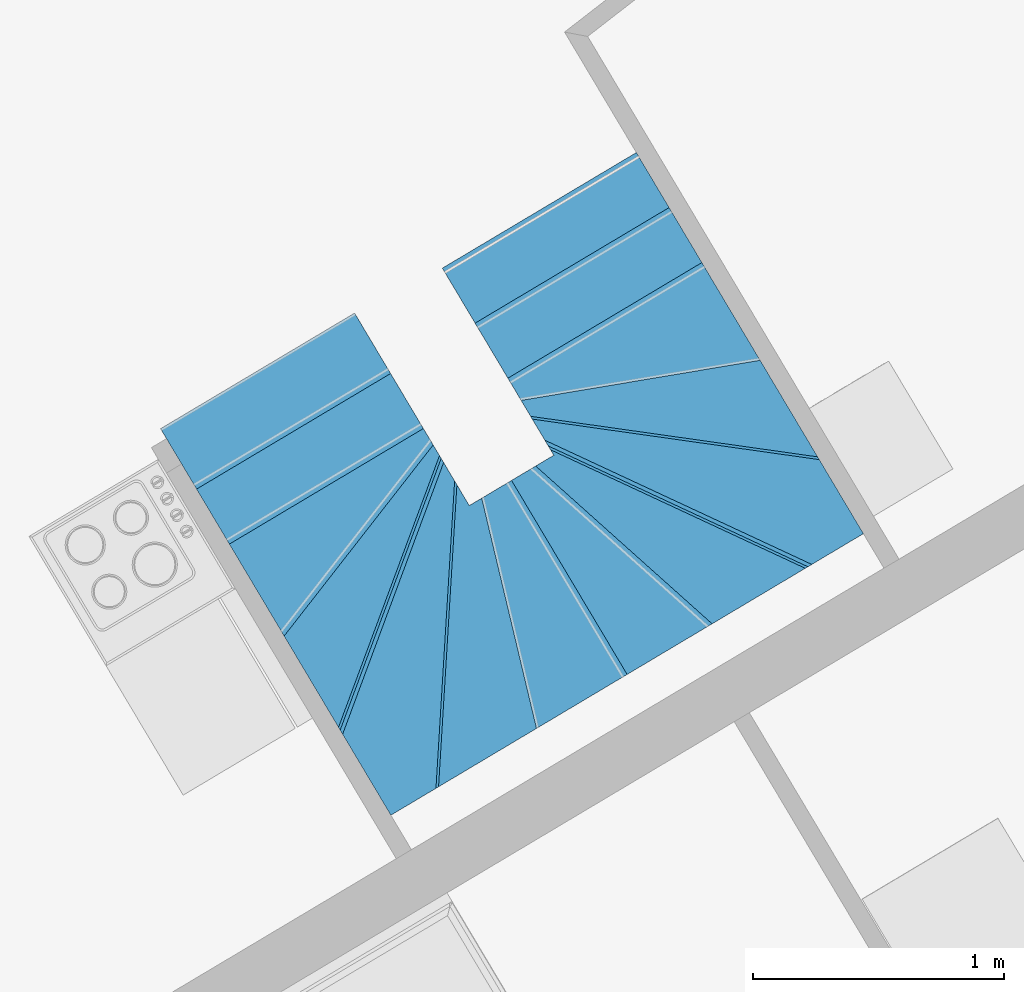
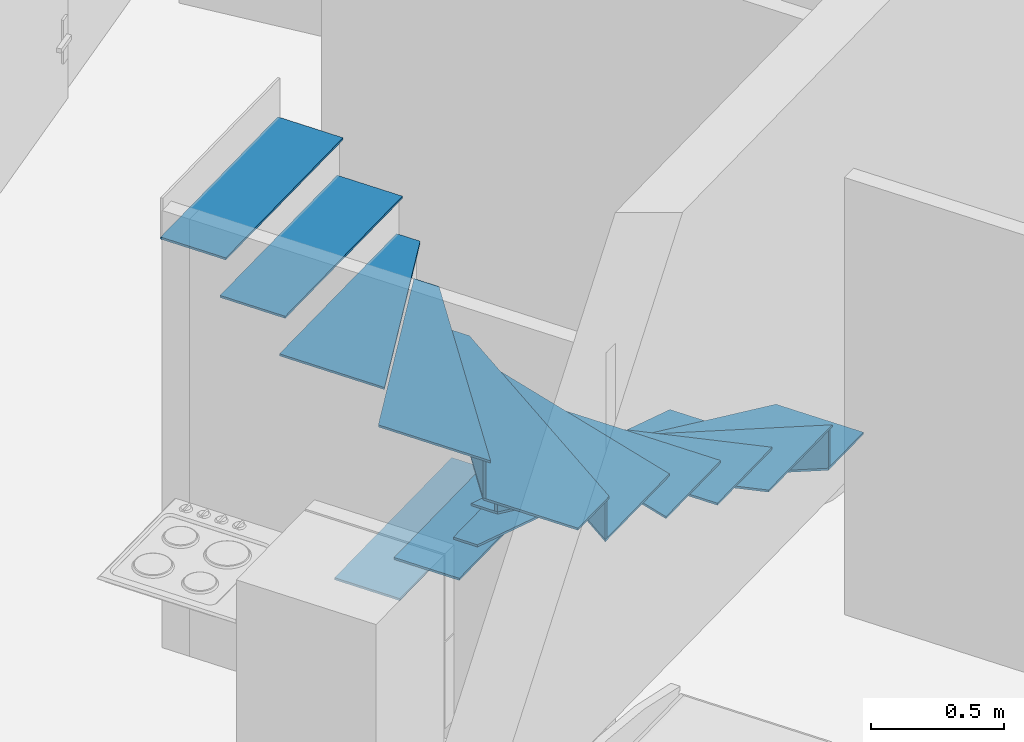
# One storey, part 100 of 195: 35 members, 2 elements without a shape of their own.
"""IFC2X3 building model written with IfcOpenShell, lengths in metres."""

from ifc_helpers import new_model, entity, si_unit, converted_unit, derived_unit, money_unit, direction, frame, origin_with_axes, place, context, subcontext, project, spatial, faceted_brep, material, type_object, element, aggregate, save


model = new_model("IFC2X3")

# Units and contexts
model_context = context("Model", 3, precision=1e-05, world=origin_with_axes(), true_north=direction((0.0, 1.0)))
body_context = subcontext(model_context, "Body", "Model", "MODEL_VIEW")
ifc_project = project(units=[si_unit("LENGTHUNIT", "METRE"), si_unit("AREAUNIT", "SQUARE_METRE"), si_unit("VOLUMEUNIT", "CUBIC_METRE"), converted_unit("PLANEANGLEUNIT", "DEGREE", entity("IfcPlaneAngleMeasure", 0.0174532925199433), si_unit("PLANEANGLEUNIT", "RADIAN"), dimensions=[0, 0, 0, 0, 0, 0, 0]), money_unit("CHF"), converted_unit("TIMEUNIT", "Year", entity("IfcTimeMeasure", 31557600.0), si_unit("TIMEUNIT", "SECOND"), dimensions=[0, 0, 1, 0, 0, 0, 0]), si_unit("MASSUNIT", "GRAM", prefix="KILO"), si_unit("THERMODYNAMICTEMPERATUREUNIT", "DEGREE_CELSIUS"), si_unit("LUMINOUSINTENSITYUNIT", "LUMEN"), si_unit("ENERGYUNIT", "JOULE", prefix="MEGA"), derived_unit("THERMALCONDUCTANCEUNIT", [(si_unit("POWERUNIT", "WATT"), 1), (si_unit("LENGTHUNIT", "METRE"), -1), (si_unit("THERMODYNAMICTEMPERATUREUNIT", "KELVIN"), -1)]), derived_unit("SPECIFICHEATCAPACITYUNIT", [(si_unit("ENERGYUNIT", "JOULE"), 1), (si_unit("MASSUNIT", "GRAM", prefix="KILO"), -1), (si_unit("THERMODYNAMICTEMPERATUREUNIT", "KELVIN"), -1)]), derived_unit("MASSDENSITYUNIT", [(si_unit("MASSUNIT", "GRAM", prefix="KILO"), 1), (si_unit("VOLUMEUNIT", "CUBIC_METRE"), -1)])], contexts=[model_context])

# Site, building, storey
site_placement = place(None, origin_with_axes())
site = spatial("IfcSite", under=ifc_project, at=site_placement, Name="Site", CompositionType="ELEMENT")
building_placement = place(site_placement, origin_with_axes())
building = spatial("IfcBuilding", under=site, at=building_placement, Name="Bâtiment", CompositionType="ELEMENT")
storey_placement = place(building_placement, origin_with_axes())
storey = spatial("IfcBuildingStorey", under=building, at=storey_placement, Name="rdc", CompositionType="ELEMENT", Elevation=0.0)

# Stair, members
stair_1_placement = place(storey_placement, frame((9542.358293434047, -1043.385861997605, 57.0), z_axis=(0.0, 0.0, 1.0), x_axis=(0.5118296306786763, -0.8590869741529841, 0.0)))
stair_1 = element("IfcStair", 1, at=stair_1_placement, inside=storey, Name="ESC-014", ShapeType="NOTDEFINED")
ifc_material = material(Name="Lame d'air 275581351")
member_type = type_object("IfcMemberType", Name="IfcMember", PredefinedType="NOTDEFINED")
member_1_placement = place(stair_1_placement, frame((0.1501360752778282, -0.451252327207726, 0.8900000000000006), z_axis=(0.0, 0.0, 1.0), x_axis=(-0.6269327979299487, -0.7790733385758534, 0.0)))
member_1 = element("IfcMember", 2, at=member_1_placement, type_object=member_type, material=ifc_material, Name="C-MARCHE-235", context=body_context, shape_type="Brep", body=[
    faceted_brep([(0.5460403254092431, 0.01500000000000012, 0.0), (0.5379931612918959, 0.02500000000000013, 0.0), (-0.6172256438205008, 0.02500000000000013, 0.0), (-0.6091784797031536, 0.01500000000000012, 0.0), (0.5460403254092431, 0.01500000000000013, -0.17), (0.5379931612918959, 0.02500000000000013, -0.17), (-0.6172256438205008, 0.02500000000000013, -0.17), (-0.6091784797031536, 0.01500000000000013, -0.17)], [[[0, 1, 2, 3]], [[0, 4, 5, 1]], [[1, 5, 6, 2]], [[3, 2, 6, 7]], [[4, 0, 3, 7]], [[5, 4, 7, 6]]]),
])
member_2_placement = place(stair_1_placement, frame((0.3566544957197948, -0.5955488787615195, 1.07), z_axis=(0.0, 0.0, 1.0), x_axis=(-0.8264538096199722, -0.5630045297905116, 0.0)))
member_2 = element("IfcMember", 3, at=member_2_placement, type_object=member_type, material=ifc_material, Name="C-MARCHE-236", context=body_context, shape_type="Brep", body=[
    faceted_brep([(0.4939854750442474, 0.0149999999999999, 0.0), (0.4793061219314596, 0.0249999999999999, 0.0), (-0.6404114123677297, 0.02499999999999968, 0.0), (-0.6472237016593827, 0.01499999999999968, 0.0), (0.4939854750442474, 0.01499999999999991, -0.1699999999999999), (0.4793061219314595, 0.02499999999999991, -0.1699999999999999), (-0.6404114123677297, 0.02499999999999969, -0.1699999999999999), (-0.6472237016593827, 0.01499999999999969, -0.1699999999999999)], [[[0, 1, 2, 3]], [[0, 4, 5, 1]], [[1, 5, 6, 2]], [[3, 2, 6, 7]], [[4, 0, 3, 7]], [[5, 4, 7, 6]]]),
])
member_3_placement = place(stair_1_placement, frame((0.3566547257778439, -1.568489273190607, 1.789999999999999), z_axis=(0.0, 0.0, 1.0), x_axis=(-0.8264540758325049, 0.5630041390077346, 0.0)))
member_3 = element("IfcMember", 4, at=member_3_placement, type_object=member_type, material=ifc_material, Name="C-MARCHE-240", context=body_context, shape_type="Brep", body=[
    faceted_brep([(0.5380235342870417, 0.0149999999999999, 0.0), (0.5527028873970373, 0.0249999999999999, 0.0), (-0.6744728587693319, 0.0249999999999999, 0.0), (-0.6676605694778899, 0.0149999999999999, 0.0), (0.5380235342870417, 0.01499999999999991, -0.1700000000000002), (0.5527028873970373, 0.02499999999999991, -0.1700000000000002), (-0.6744728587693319, 0.02499999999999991, -0.1700000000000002), (-0.6676605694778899, 0.01499999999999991, -0.1700000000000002)], [[[0, 1, 2, 3]], [[0, 4, 5, 1]], [[1, 5, 6, 2]], [[3, 2, 6, 7]], [[4, 0, 3, 7]], [[5, 4, 7, 6]]]),
])
member_4_placement = place(stair_1_placement, frame((0.1501363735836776, -1.71278592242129, 1.969999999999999), z_axis=(0.0, 0.0, 1.0), x_axis=(-0.6269331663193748, 0.7790730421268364, 0.0)))
member_4 = element("IfcMember", 5, at=member_4_placement, type_object=member_type, material=ifc_material, Name="C-MARCHE-241", context=body_context, shape_type="Brep", body=[
    faceted_brep([(0.5701818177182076, 0.01499999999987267, 0.0), (0.5782289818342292, 0.02499999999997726, 0.0), (-0.5769898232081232, 0.02499999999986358, 0.0), (-0.5850369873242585, 0.01499999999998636, 0.0), (0.5701818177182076, 0.01499999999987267, -0.1700000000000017), (0.5782289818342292, 0.02499999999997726, -0.1700000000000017), (-0.5769898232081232, 0.02499999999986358, -0.1700000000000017), (-0.5850369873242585, 0.01499999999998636, -0.1700000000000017)], [[[0, 1, 2, 3]], [[0, 4, 5, 1]], [[1, 5, 6, 2]], [[3, 2, 6, 7]], [[4, 0, 3, 7]], [[5, 4, 7, 6]]]),
])
member_5_placement = place(stair_1_placement, frame((-0.6126475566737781, -0.4260618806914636, 0.3599999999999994), z_axis=(0.0, 0.0, 1.0), x_axis=(2.365009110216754e-07, -0.9999999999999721, 0.0)))
member_5 = element("IfcMember", 6, at=member_5_placement, type_object=member_type, material=ifc_material, Name="MARCHE-224", context=body_context, shape_type="Brep", body=[
    faceted_brep([(-0.44, 0.0, -0.01), (0.4600000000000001, 0.0, -0.01), (0.4600000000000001, 0.0, 0.0), (-0.44, 0.0, 0.0), (-0.4399999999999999, 0.280195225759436, -0.01), (0.4600000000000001, 0.2801952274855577, -0.01), (0.4600000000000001, 0.2801952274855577, 0.0), (-0.4399999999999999, 0.280195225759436, 0.0)], [[[0, 1, 2, 3]], [[0, 4, 5, 1]], [[1, 5, 6, 2]], [[3, 2, 6, 7]], [[4, 0, 3, 7]], [[5, 4, 7, 6]]]),
])
member_6_placement = place(stair_1_placement, frame((-0.1022570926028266, -0.4260617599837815, 0.7199999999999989), z_axis=(0.0, 0.0, 1.0), x_axis=(-0.362570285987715, -0.9319564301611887, 0.0)))
member_6 = element("IfcMember", 7, at=member_6_placement, type_object=member_type, material=ifc_material, Name="MARCHE-226", context=body_context, shape_type="Brep", body=[
    faceted_brep([(-0.4721251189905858, 0.0, -0.01), (0.4935853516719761, 0.0, -0.01), (0.4935853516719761, 0.0, 0.0), (-0.4721251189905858, 0.0, 0.0), (-0.6489327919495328, 0.4544689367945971, -0.01), (0.4524177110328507, 0.1058178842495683, -0.01), (0.4524177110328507, 0.1058178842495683, 0.0), (-0.6489327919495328, 0.4544689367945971, 0.0)], [[[0, 1, 2, 3]], [[0, 4, 5, 1]], [[1, 5, 6, 2]], [[3, 2, 6, 7]], [[4, 0, 3, 7]], [[5, 4, 7, 6]]]),
])
member_7_placement = place(stair_1_placement, frame((-0.8678427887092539, -0.426061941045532, 0.1799999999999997), z_axis=(0.0, 0.0, 1.0), x_axis=(2.365009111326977e-07, -0.999999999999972, 0.0)))
member_7 = element("IfcMember", 8, at=member_7_placement, type_object=member_type, material=ifc_material, Name="MARCHE-223", context=body_context, shape_type="Brep", body=[
    faceted_brep([(-0.44, 0.0, -0.01), (0.4600000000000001, 0.0, -0.01), (0.4600000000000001, 0.0, 0.0), (-0.44, 0.0, 0.0), (-0.4399999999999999, 0.280195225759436, -0.01), (0.4600000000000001, 0.2801952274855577, -0.01), (0.4600000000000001, 0.2801952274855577, 0.0), (-0.4399999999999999, 0.280195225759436, 0.0)], [[[0, 1, 2, 3]], [[0, 4, 5, 1]], [[1, 5, 6, 2]], [[3, 2, 6, 7]], [[4, 0, 3, 7]], [[5, 4, 7, 6]]]),
])
member_8_placement = place(stair_1_placement, frame((0.1501360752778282, -0.451252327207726, 0.8999999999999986), z_axis=(0.0, 0.0, 1.0), x_axis=(-0.6269327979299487, -0.7790733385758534, 0.0)))
member_8 = element("IfcMember", 9, at=member_8_placement, type_object=member_type, material=ifc_material, Name="MARCHE-227", context=body_context, shape_type="Brep", body=[
    faceted_brep([(-0.5971077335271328, 0.0, -0.01), (0.5581110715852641, 0.0, -0.01), (0.5581110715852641, 0.0, 0.0), (-0.5971077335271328, 0.0, 0.0), (-0.8325320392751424, 0.2925556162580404, -0.01), (-0.6224984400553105, 0.4615731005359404, -0.01), (0.4487944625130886, 0.1358448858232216, -0.01), (0.4487944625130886, 0.1358448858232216, 0.0), (-0.6224984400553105, 0.4615731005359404, 0.0), (-0.8325320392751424, 0.2925556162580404, 0.0)], [[[0, 1, 2, 3]], [[0, 4, 5, 6, 1]], [[1, 6, 7, 2]], [[3, 2, 7, 8, 9]], [[4, 0, 3, 9]], [[5, 4, 9, 8]], [[6, 5, 8, 7]]]),
])
member_9_placement = place(stair_1_placement, frame((-0.3574523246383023, -0.4260618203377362, 0.5399999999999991), z_axis=(0.0, 0.0, 1.0), x_axis=(2.3650091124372e-07, -0.9999999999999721, 0.0)))
member_9 = element("IfcMember", 10, at=member_9_placement, type_object=member_type, material=ifc_material, Name="MARCHE-225", context=body_context, shape_type="Brep", body=[
    faceted_brep([(-0.4399999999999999, 0.0, -0.01), (0.46, 0.0, -0.01), (0.46, 0.0, 0.0), (-0.4399999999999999, 0.0, 0.0), (-0.4399999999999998, 0.4531991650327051, -0.01), (0.46, 0.1030610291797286, -0.01), (0.46, 0.1030610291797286, 0.0), (-0.4399999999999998, 0.4531991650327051, 0.0)], [[[0, 1, 2, 3]], [[0, 4, 5, 1]], [[1, 5, 6, 2]], [[3, 2, 6, 7]], [[4, 0, 3, 7]], [[5, 4, 7, 6]]]),
])
member_10_placement = place(stair_1_placement, frame((0.3566544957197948, -0.5955488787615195, 1.079999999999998), z_axis=(0.0, 0.0, 1.0), x_axis=(-0.8264538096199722, -0.5630045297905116, 0.0)))
member_10 = element("IfcMember", 11, at=member_10_placement, type_object=member_type, material=ifc_material, Name="MARCHE-228", context=body_context, shape_type="Brep", body=[
    faceted_brep([(-0.6574421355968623, 0.0, -0.01), (0.5160045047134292, 0.0, -0.01), (0.5160045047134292, 0.0, 0.0), (-0.6574421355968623, 0.0, 0.0), (-0.3823180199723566, 0.403864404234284, -0.01), (0.5203138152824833, 0.1303028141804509, -0.01), (0.4583183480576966, 0.03929747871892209, -0.01), (0.4583183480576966, 0.03929747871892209, 0.0), (0.5203138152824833, 0.1303028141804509, 0.0), (-0.3823180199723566, 0.403864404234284, 0.0)], [[[0, 1, 2, 3]], [[0, 4, 5, 6, 1]], [[1, 6, 7, 2]], [[3, 2, 7, 8, 9]], [[4, 0, 3, 9]], [[5, 4, 9, 8]], [[6, 5, 8, 7]]]),
])
member_11_placement = place(stair_1_placement, frame((0.4600002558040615, -1.082019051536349, 1.439999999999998), z_axis=(0.0, 0.0, 1.0), x_axis=(-0.9999999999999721, -2.364141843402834e-07, 0.0)))
member_11 = element("IfcMember", 12, at=member_11_placement, type_object=member_type, material=ifc_material, Name="MARCHE-230", context=body_context, shape_type="Brep", body=[
    faceted_brep([(-0.4399999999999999, 0.0, -0.01), (0.46, 0.0, -0.01), (0.46, 0.0, 0.0), (-0.4399999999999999, 0.0, 0.0), (-0.4399999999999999, 0.4203402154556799, -0.01), (0.46, 0.138240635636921, -0.01), (0.46, 0.138240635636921, 0.0), (-0.4399999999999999, 0.4203402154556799, 0.0)], [[[0, 1, 2, 3]], [[0, 4, 5, 1]], [[1, 5, 6, 2]], [[3, 2, 6, 7]], [[4, 0, 3, 7]], [[5, 4, 7, 6]]]),
])
member_12_placement = place(stair_1_placement, frame((0.4561912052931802, -0.8269874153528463, 1.259999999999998), z_axis=(0.0, 0.0, 1.0), x_axis=(-0.9542231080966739, -0.2990957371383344, 0.0)))
member_12 = element("IfcMember", 13, at=member_12_placement, type_object=member_type, material=ifc_material, Name="MARCHE-229", context=body_context, shape_type="Brep", body=[
    faceted_brep([(-0.465099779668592, 0.0, -0.01), (0.4780758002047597, 0.0, -0.01), (0.4780758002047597, 0.0, 0.0), (-0.465099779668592, 0.0, 0.0), (-0.3397366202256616, 0.3999539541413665, -0.01), (0.5190642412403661, 0.1307679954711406, -0.01), (0.5190642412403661, 0.1307679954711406, 0.0), (-0.3397366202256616, 0.3999539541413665, 0.0)], [[[0, 1, 2, 3]], [[0, 4, 5, 1]], [[1, 5, 6, 2]], [[3, 2, 6, 7]], [[4, 0, 3, 7]], [[5, 4, 7, 6]]]),
])
member_13_placement = place(stair_1_placement, frame((0.3566547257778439, -1.568489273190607, 1.799999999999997), z_axis=(0.0, 0.0, 1.0), x_axis=(-0.8264540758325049, 0.5630041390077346, 0.0)))
member_13 = element("IfcMember", 14, at=member_13_placement, type_object=member_type, material=ifc_material, Name="MARCHE-232", context=body_context, shape_type="Brep", body=[
    faceted_brep([(-0.6574421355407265, 0.0, -0.01), (0.5160045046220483, 0.0, -0.01), (0.5160045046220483, 0.0, 0.0), (-0.6574421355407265, 0.0, 0.0), (-0.7921941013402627, 0.1978071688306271, -0.01), (-0.4553257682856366, 0.4272916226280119, -0.01), (0.6499330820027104, 0.09123602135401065, -0.01), (0.6499330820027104, 0.09123602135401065, 0.0), (-0.4553257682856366, 0.4272916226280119, 0.0), (-0.7921941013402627, 0.1978071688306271, 0.0)], [[[0, 1, 2, 3]], [[0, 4, 5, 6, 1]], [[1, 6, 7, 2]], [[3, 2, 7, 8, 9]], [[4, 0, 3, 9]], [[5, 4, 9, 8]], [[6, 5, 8, 7]]]),
])
member_14_placement = place(stair_1_placement, frame((0.4561913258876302, -1.337050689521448, 1.619999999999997), z_axis=(0.0, 0.0, 1.0), x_axis=(-0.954223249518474, 0.299095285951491, 0.0)))
member_14 = element("IfcMember", 15, at=member_14_placement, type_object=member_type, material=ifc_material, Name="MARCHE-231", context=body_context, shape_type="Brep", body=[
    faceted_brep([(-0.4650997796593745, 0.0, -0.01), (0.4780758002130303, 0.0, -0.01), (0.4780758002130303, 0.0, 0.0), (-0.4650997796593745, 0.0, 0.0), (-0.612470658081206, 0.4701665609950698, -0.01), (0.5619531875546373, 0.1142326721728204, -0.01), (0.4529768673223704, 0.08007470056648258, -0.01), (0.4529768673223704, 0.08007470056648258, 0.0), (0.5619531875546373, 0.1142326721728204, 0.0), (-0.612470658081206, 0.4701665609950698, 0.0)], [[[0, 1, 2, 3]], [[0, 4, 5, 6, 1]], [[1, 6, 7, 2]], [[3, 2, 7, 8, 9]], [[4, 0, 3, 9]], [[5, 4, 9, 8]], [[6, 5, 8, 7]]]),
])
member_15_placement = place(stair_1_placement, frame((0.1501363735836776, -1.71278592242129, 1.979999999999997), z_axis=(0.0, 0.0, 1.0), x_axis=(-0.6269331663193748, 0.7790730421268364, 0.0)))
member_15 = element("IfcMember", 16, at=member_15_placement, type_object=member_type, material=ifc_material, Name="MARCHE-233", context=body_context, shape_type="Brep", body=[
    faceted_brep([(-0.5971077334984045, 0.0, -0.00999999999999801), (0.5581110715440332, 0.0, -0.00999999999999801), (0.5581110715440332, 0.0, 0.0), (-0.5971077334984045, 0.0, 0.0), (-0.2946838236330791, 0.3758142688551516, -0.00999999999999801), (0.6259951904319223, 0.08435781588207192, -0.00999999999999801), (0.6259951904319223, 0.08435781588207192, 0.0), (-0.2946838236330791, 0.3758142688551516, 0.0)], [[[0, 1, 2, 3]], [[0, 4, 5, 1]], [[1, 5, 6, 2]], [[3, 2, 6, 7]], [[4, 0, 3, 7]], [[5, 4, 7, 6]]]),
])
member_16_placement = place(stair_1_placement, frame((-0.1022567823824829, -1.737976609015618, 2.159999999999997), z_axis=(0.0, 0.0, 1.0), x_axis=(-0.3625707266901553, 0.9319562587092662, 0.0)))
member_16 = element("IfcMember", 17, at=member_16_placement, type_object=member_type, material=ifc_material, Name="MARCHE-234", context=body_context, shape_type="Brep", body=[
    faceted_brep([(-0.4721251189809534, 0.0, -0.01), (0.4935853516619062, 0.0, -0.01), (0.4935853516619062, 0.0, 0.0), (-0.4721251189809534, 0.0, 0.0), (-0.3084702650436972, 0.4206607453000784, -0.01), (0.5302904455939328, 0.09434729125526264, -0.01), (0.5302904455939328, 0.09434729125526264, 0.0), (-0.3084702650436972, 0.4206607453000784, 0.0)], [[[0, 1, 2, 3]], [[0, 4, 5, 1]], [[1, 5, 6, 2]], [[3, 2, 6, 7]], [[4, 0, 3, 7]], [[5, 4, 7, 6]]]),
])
member_17_placement = place(stair_1_placement, frame((-0.3574520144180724, -1.73797666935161, 2.340000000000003), z_axis=(0.0, 0.0, 1.0), x_axis=(-2.364303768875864e-07, 0.9999999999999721, 0.0)))
member_17 = element("IfcMember", 18, at=member_17_placement, type_object=member_type, material=ifc_material, Name="MARCHE-235", context=body_context, shape_type="Brep", body=[
    faceted_brep([(-0.4399999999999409, 0.0, -0.00999999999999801), (0.4600000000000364, 0.0, -0.00999999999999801), (0.4600000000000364, 0.0, 0.0), (-0.4399999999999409, 0.0, 0.0), (-0.4399999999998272, 0.2801952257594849, -0.00999999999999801), (0.4600000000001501, 0.2801952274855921, -0.00999999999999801), (0.4600000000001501, 0.2801952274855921, 0.0), (-0.4399999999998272, 0.2801952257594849, 0.0)], [[[0, 1, 2, 3]], [[0, 4, 5, 1]], [[1, 5, 6, 2]], [[3, 2, 6, 7]], [[4, 0, 3, 7]], [[5, 4, 7, 6]]]),
])
member_18_placement = place(stair_1_placement, frame((-0.6126472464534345, -1.737976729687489, 2.520000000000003), z_axis=(0.0, 0.0, 1.0), x_axis=(-2.364303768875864e-07, 0.9999999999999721, 0.0)))
member_18 = element("IfcMember", 19, at=member_18_placement, type_object=member_type, material=ifc_material, Name="MARCHE-236", context=body_context, shape_type="Brep", body=[
    faceted_brep([(-0.4400000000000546, 0.0, -0.00999999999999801), (0.4600000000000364, 0.0, -0.00999999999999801), (0.4600000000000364, 0.0, 0.0), (-0.4400000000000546, 0.0, 0.0), (-0.4400000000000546, 0.2551952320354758, -0.00999999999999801), (-0.4399999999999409, 0.280195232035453, -0.00999999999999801), (0.4599999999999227, 0.2801952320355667, -0.00999999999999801), (0.4600000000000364, 0.2551952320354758, -0.00999999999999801), (0.4600000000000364, 0.2551952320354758, 0.0), (0.4599999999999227, 0.2801952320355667, 0.0), (-0.4399999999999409, 0.280195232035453, 0.0), (-0.4400000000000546, 0.2551952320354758, 0.0)], [[[0, 1, 2, 3]], [[0, 4, 5, 6, 7, 1]], [[1, 7, 8, 2]], [[3, 2, 8, 9, 10, 11]], [[4, 0, 3, 11]], [[5, 4, 11, 10]], [[6, 5, 10, 9]], [[7, 6, 9, 8]]]),
])
aggregate(stair_1, [member_1, member_2, member_3, member_4, member_5, member_6, member_7, member_8, member_9, member_10, member_11, member_12, member_13, member_14, member_15, member_16, member_17, member_18])

stair_2_placement = place(storey_placement, frame((9542.358293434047, -1043.385861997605, 57.0), z_axis=(0.0, 0.0, 1.0), x_axis=(0.5118296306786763, -0.8590869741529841, 0.0)))
stair_2 = element("IfcStair", 20, at=stair_2_placement, inside=storey, Name="ESC-014", ShapeType="NOTDEFINED")
member_19_placement = place(stair_2_placement, frame((0.1501360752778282, -0.451252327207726, 0.8900000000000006), z_axis=(0.0, 0.0, 1.0), x_axis=(-0.6269327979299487, -0.7790733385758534, 0.0)))
member_19 = element("IfcMember", 21, at=member_19_placement, type_object=member_type, material=ifc_material, Name="C-MARCHE-235", context=body_context, shape_type="Brep", body=[
    faceted_brep([(0.5460403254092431, 0.01500000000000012, 0.0), (0.5379931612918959, 0.02500000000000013, 0.0), (-0.6172256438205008, 0.02500000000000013, 0.0), (-0.6091784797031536, 0.01500000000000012, 0.0), (0.5460403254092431, 0.01500000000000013, -0.17), (0.5379931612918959, 0.02500000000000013, -0.17), (-0.6172256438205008, 0.02500000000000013, -0.17), (-0.6091784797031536, 0.01500000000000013, -0.17)], [[[0, 1, 2, 3]], [[0, 4, 5, 1]], [[1, 5, 6, 2]], [[3, 2, 6, 7]], [[4, 0, 3, 7]], [[5, 4, 7, 6]]]),
])
member_20_placement = place(stair_2_placement, frame((0.3566544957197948, -0.5955488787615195, 1.07), z_axis=(0.0, 0.0, 1.0), x_axis=(-0.8264538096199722, -0.5630045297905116, 0.0)))
member_20 = element("IfcMember", 22, at=member_20_placement, type_object=member_type, material=ifc_material, Name="C-MARCHE-236", context=body_context, shape_type="Brep", body=[
    faceted_brep([(0.4939854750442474, 0.0149999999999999, 0.0), (0.4793061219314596, 0.0249999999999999, 0.0), (-0.6404114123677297, 0.02499999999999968, 0.0), (-0.6472237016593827, 0.01499999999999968, 0.0), (0.4939854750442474, 0.01499999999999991, -0.1699999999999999), (0.4793061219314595, 0.02499999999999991, -0.1699999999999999), (-0.6404114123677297, 0.02499999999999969, -0.1699999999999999), (-0.6472237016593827, 0.01499999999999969, -0.1699999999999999)], [[[0, 1, 2, 3]], [[0, 4, 5, 1]], [[1, 5, 6, 2]], [[3, 2, 6, 7]], [[4, 0, 3, 7]], [[5, 4, 7, 6]]]),
])
member_21_placement = place(stair_2_placement, frame((0.3566547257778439, -1.568489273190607, 1.789999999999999), z_axis=(0.0, 0.0, 1.0), x_axis=(-0.8264540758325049, 0.5630041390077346, 0.0)))
member_21 = element("IfcMember", 23, at=member_21_placement, type_object=member_type, material=ifc_material, Name="C-MARCHE-240", context=body_context, shape_type="Brep", body=[
    faceted_brep([(0.5380235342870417, 0.0149999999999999, 0.0), (0.5527028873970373, 0.0249999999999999, 0.0), (-0.6744728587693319, 0.0249999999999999, 0.0), (-0.6676605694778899, 0.0149999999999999, 0.0), (0.5380235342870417, 0.01499999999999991, -0.1700000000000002), (0.5527028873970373, 0.02499999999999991, -0.1700000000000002), (-0.6744728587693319, 0.02499999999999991, -0.1700000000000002), (-0.6676605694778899, 0.01499999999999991, -0.1700000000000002)], [[[0, 1, 2, 3]], [[0, 4, 5, 1]], [[1, 5, 6, 2]], [[3, 2, 6, 7]], [[4, 0, 3, 7]], [[5, 4, 7, 6]]]),
])
member_22_placement = place(stair_2_placement, frame((0.1501363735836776, -1.71278592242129, 1.969999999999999), z_axis=(0.0, 0.0, 1.0), x_axis=(-0.6269331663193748, 0.7790730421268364, 0.0)))
member_22 = element("IfcMember", 24, at=member_22_placement, type_object=member_type, material=ifc_material, Name="C-MARCHE-241", context=body_context, shape_type="Brep", body=[
    faceted_brep([(0.5701818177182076, 0.01499999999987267, 0.0), (0.5782289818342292, 0.02499999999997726, 0.0), (-0.5769898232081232, 0.02499999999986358, 0.0), (-0.5850369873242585, 0.01499999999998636, 0.0), (0.5701818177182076, 0.01499999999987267, -0.1700000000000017), (0.5782289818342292, 0.02499999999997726, -0.1700000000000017), (-0.5769898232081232, 0.02499999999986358, -0.1700000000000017), (-0.5850369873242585, 0.01499999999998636, -0.1700000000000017)], [[[0, 1, 2, 3]], [[0, 4, 5, 1]], [[1, 5, 6, 2]], [[3, 2, 6, 7]], [[4, 0, 3, 7]], [[5, 4, 7, 6]]]),
])
member_23_placement = place(stair_2_placement, frame((-0.6126475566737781, -0.4260618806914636, 0.3599999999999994), z_axis=(0.0, 0.0, 1.0), x_axis=(2.365009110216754e-07, -0.9999999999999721, 0.0)))
member_23 = element("IfcMember", 25, at=member_23_placement, type_object=member_type, material=ifc_material, Name="MARCHE-224", context=body_context, shape_type="Brep", body=[
    faceted_brep([(-0.44, 0.0, -0.01), (0.4600000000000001, 0.0, -0.01), (0.4600000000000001, 0.0, 0.0), (-0.44, 0.0, 0.0), (-0.4399999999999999, 0.280195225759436, -0.01), (0.4600000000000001, 0.2801952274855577, -0.01), (0.4600000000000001, 0.2801952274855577, 0.0), (-0.4399999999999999, 0.280195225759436, 0.0)], [[[0, 1, 2, 3]], [[0, 4, 5, 1]], [[1, 5, 6, 2]], [[3, 2, 6, 7]], [[4, 0, 3, 7]], [[5, 4, 7, 6]]]),
])
member_24_placement = place(stair_2_placement, frame((-0.3574523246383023, -0.4260618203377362, 0.5399999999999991), z_axis=(0.0, 0.0, 1.0), x_axis=(2.3650091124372e-07, -0.9999999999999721, 0.0)))
member_24 = element("IfcMember", 26, at=member_24_placement, type_object=member_type, material=ifc_material, Name="MARCHE-225", context=body_context, shape_type="Brep", body=[
    faceted_brep([(-0.4399999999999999, 0.0, -0.01), (0.46, 0.0, -0.01), (0.46, 0.0, 0.0), (-0.4399999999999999, 0.0, 0.0), (-0.4399999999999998, 0.4531991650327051, -0.01), (0.46, 0.1030610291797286, -0.01), (0.46, 0.1030610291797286, 0.0), (-0.4399999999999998, 0.4531991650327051, 0.0)], [[[0, 1, 2, 3]], [[0, 4, 5, 1]], [[1, 5, 6, 2]], [[3, 2, 6, 7]], [[4, 0, 3, 7]], [[5, 4, 7, 6]]]),
])
member_25_placement = place(stair_2_placement, frame((-0.1022570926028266, -0.4260617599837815, 0.7199999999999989), z_axis=(0.0, 0.0, 1.0), x_axis=(-0.362570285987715, -0.9319564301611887, 0.0)))
member_25 = element("IfcMember", 27, at=member_25_placement, type_object=member_type, material=ifc_material, Name="MARCHE-226", context=body_context, shape_type="Brep", body=[
    faceted_brep([(-0.4721251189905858, 0.0, -0.01), (0.4935853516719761, 0.0, -0.01), (0.4935853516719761, 0.0, 0.0), (-0.4721251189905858, 0.0, 0.0), (-0.6489327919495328, 0.4544689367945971, -0.01), (0.4524177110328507, 0.1058178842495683, -0.01), (0.4524177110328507, 0.1058178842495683, 0.0), (-0.6489327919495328, 0.4544689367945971, 0.0)], [[[0, 1, 2, 3]], [[0, 4, 5, 1]], [[1, 5, 6, 2]], [[3, 2, 6, 7]], [[4, 0, 3, 7]], [[5, 4, 7, 6]]]),
])
member_26_placement = place(stair_2_placement, frame((0.1501360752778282, -0.451252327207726, 0.8999999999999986), z_axis=(0.0, 0.0, 1.0), x_axis=(-0.6269327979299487, -0.7790733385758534, 0.0)))
member_26 = element("IfcMember", 28, at=member_26_placement, type_object=member_type, material=ifc_material, Name="MARCHE-227", context=body_context, shape_type="Brep", body=[
    faceted_brep([(-0.5971077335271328, 0.0, -0.01), (0.5581110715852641, 0.0, -0.01), (0.5581110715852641, 0.0, 0.0), (-0.5971077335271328, 0.0, 0.0), (-0.8325320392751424, 0.2925556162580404, -0.01), (-0.6224984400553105, 0.4615731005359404, -0.01), (0.4487944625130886, 0.1358448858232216, -0.01), (0.4487944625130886, 0.1358448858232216, 0.0), (-0.6224984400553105, 0.4615731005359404, 0.0), (-0.8325320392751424, 0.2925556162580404, 0.0)], [[[0, 1, 2, 3]], [[0, 4, 5, 6, 1]], [[1, 6, 7, 2]], [[3, 2, 7, 8, 9]], [[4, 0, 3, 9]], [[5, 4, 9, 8]], [[6, 5, 8, 7]]]),
])
member_27_placement = place(stair_2_placement, frame((0.3566544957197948, -0.5955488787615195, 1.079999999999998), z_axis=(0.0, 0.0, 1.0), x_axis=(-0.8264538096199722, -0.5630045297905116, 0.0)))
member_27 = element("IfcMember", 29, at=member_27_placement, type_object=member_type, material=ifc_material, Name="MARCHE-228", context=body_context, shape_type="Brep", body=[
    faceted_brep([(-0.6574421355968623, 0.0, -0.01), (0.5160045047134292, 0.0, -0.01), (0.5160045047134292, 0.0, 0.0), (-0.6574421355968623, 0.0, 0.0), (-0.3823180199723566, 0.403864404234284, -0.01), (0.5203138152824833, 0.1303028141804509, -0.01), (0.4583183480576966, 0.03929747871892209, -0.01), (0.4583183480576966, 0.03929747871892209, 0.0), (0.5203138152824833, 0.1303028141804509, 0.0), (-0.3823180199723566, 0.403864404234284, 0.0)], [[[0, 1, 2, 3]], [[0, 4, 5, 6, 1]], [[1, 6, 7, 2]], [[3, 2, 7, 8, 9]], [[4, 0, 3, 9]], [[5, 4, 9, 8]], [[6, 5, 8, 7]]]),
])
member_28_placement = place(stair_2_placement, frame((0.4600002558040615, -1.082019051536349, 1.439999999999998), z_axis=(0.0, 0.0, 1.0), x_axis=(-0.9999999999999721, -2.364141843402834e-07, 0.0)))
member_28 = element("IfcMember", 30, at=member_28_placement, type_object=member_type, material=ifc_material, Name="MARCHE-230", context=body_context, shape_type="Brep", body=[
    faceted_brep([(-0.4399999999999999, 0.0, -0.01), (0.46, 0.0, -0.01), (0.46, 0.0, 0.0), (-0.4399999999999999, 0.0, 0.0), (-0.4399999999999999, 0.4203402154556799, -0.01), (0.46, 0.138240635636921, -0.01), (0.46, 0.138240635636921, 0.0), (-0.4399999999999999, 0.4203402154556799, 0.0)], [[[0, 1, 2, 3]], [[0, 4, 5, 1]], [[1, 5, 6, 2]], [[3, 2, 6, 7]], [[4, 0, 3, 7]], [[5, 4, 7, 6]]]),
])
member_29_placement = place(stair_2_placement, frame((0.4561912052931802, -0.8269874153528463, 1.259999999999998), z_axis=(0.0, 0.0, 1.0), x_axis=(-0.9542231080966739, -0.2990957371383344, 0.0)))
member_29 = element("IfcMember", 31, at=member_29_placement, type_object=member_type, material=ifc_material, Name="MARCHE-229", context=body_context, shape_type="Brep", body=[
    faceted_brep([(-0.465099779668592, 0.0, -0.01), (0.4780758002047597, 0.0, -0.01), (0.4780758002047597, 0.0, 0.0), (-0.465099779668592, 0.0, 0.0), (-0.3397366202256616, 0.3999539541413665, -0.01), (0.5190642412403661, 0.1307679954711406, -0.01), (0.5190642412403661, 0.1307679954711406, 0.0), (-0.3397366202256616, 0.3999539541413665, 0.0)], [[[0, 1, 2, 3]], [[0, 4, 5, 1]], [[1, 5, 6, 2]], [[3, 2, 6, 7]], [[4, 0, 3, 7]], [[5, 4, 7, 6]]]),
])
member_30_placement = place(stair_2_placement, frame((0.3566547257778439, -1.568489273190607, 1.799999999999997), z_axis=(0.0, 0.0, 1.0), x_axis=(-0.8264540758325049, 0.5630041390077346, 0.0)))
member_30 = element("IfcMember", 32, at=member_30_placement, type_object=member_type, material=ifc_material, Name="MARCHE-232", context=body_context, shape_type="Brep", body=[
    faceted_brep([(-0.6574421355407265, 0.0, -0.01), (0.5160045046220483, 0.0, -0.01), (0.5160045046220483, 0.0, 0.0), (-0.6574421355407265, 0.0, 0.0), (-0.7921941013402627, 0.1978071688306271, -0.01), (-0.4553257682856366, 0.4272916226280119, -0.01), (0.6499330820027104, 0.09123602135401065, -0.01), (0.6499330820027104, 0.09123602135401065, 0.0), (-0.4553257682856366, 0.4272916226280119, 0.0), (-0.7921941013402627, 0.1978071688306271, 0.0)], [[[0, 1, 2, 3]], [[0, 4, 5, 6, 1]], [[1, 6, 7, 2]], [[3, 2, 7, 8, 9]], [[4, 0, 3, 9]], [[5, 4, 9, 8]], [[6, 5, 8, 7]]]),
])
member_31_placement = place(stair_2_placement, frame((0.1501363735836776, -1.71278592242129, 1.979999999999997), z_axis=(0.0, 0.0, 1.0), x_axis=(-0.6269331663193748, 0.7790730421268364, 0.0)))
member_31 = element("IfcMember", 33, at=member_31_placement, type_object=member_type, material=ifc_material, Name="MARCHE-233", context=body_context, shape_type="Brep", body=[
    faceted_brep([(-0.5971077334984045, 0.0, -0.00999999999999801), (0.5581110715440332, 0.0, -0.00999999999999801), (0.5581110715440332, 0.0, 0.0), (-0.5971077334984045, 0.0, 0.0), (-0.2946838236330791, 0.3758142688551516, -0.00999999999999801), (0.6259951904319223, 0.08435781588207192, -0.00999999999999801), (0.6259951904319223, 0.08435781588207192, 0.0), (-0.2946838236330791, 0.3758142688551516, 0.0)], [[[0, 1, 2, 3]], [[0, 4, 5, 1]], [[1, 5, 6, 2]], [[3, 2, 6, 7]], [[4, 0, 3, 7]], [[5, 4, 7, 6]]]),
])
member_32_placement = place(stair_2_placement, frame((-0.1022567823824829, -1.737976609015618, 2.159999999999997), z_axis=(0.0, 0.0, 1.0), x_axis=(-0.3625707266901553, 0.9319562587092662, 0.0)))
member_32 = element("IfcMember", 34, at=member_32_placement, type_object=member_type, material=ifc_material, Name="MARCHE-234", context=body_context, shape_type="Brep", body=[
    faceted_brep([(-0.4721251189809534, 0.0, -0.01), (0.4935853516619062, 0.0, -0.01), (0.4935853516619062, 0.0, 0.0), (-0.4721251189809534, 0.0, 0.0), (-0.3084702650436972, 0.4206607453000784, -0.01), (0.5302904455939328, 0.09434729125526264, -0.01), (0.5302904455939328, 0.09434729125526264, 0.0), (-0.3084702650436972, 0.4206607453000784, 0.0)], [[[0, 1, 2, 3]], [[0, 4, 5, 1]], [[1, 5, 6, 2]], [[3, 2, 6, 7]], [[4, 0, 3, 7]], [[5, 4, 7, 6]]]),
])
member_33_placement = place(stair_2_placement, frame((-0.3574520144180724, -1.73797666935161, 2.340000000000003), z_axis=(0.0, 0.0, 1.0), x_axis=(-2.364303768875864e-07, 0.9999999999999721, 0.0)))
member_33 = element("IfcMember", 35, at=member_33_placement, type_object=member_type, material=ifc_material, Name="MARCHE-235", context=body_context, shape_type="Brep", body=[
    faceted_brep([(-0.4399999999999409, 0.0, -0.00999999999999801), (0.4600000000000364, 0.0, -0.00999999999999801), (0.4600000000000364, 0.0, 0.0), (-0.4399999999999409, 0.0, 0.0), (-0.4399999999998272, 0.2801952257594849, -0.00999999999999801), (0.4600000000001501, 0.2801952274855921, -0.00999999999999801), (0.4600000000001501, 0.2801952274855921, 0.0), (-0.4399999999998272, 0.2801952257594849, 0.0)], [[[0, 1, 2, 3]], [[0, 4, 5, 1]], [[1, 5, 6, 2]], [[3, 2, 6, 7]], [[4, 0, 3, 7]], [[5, 4, 7, 6]]]),
])
member_34_placement = place(stair_2_placement, frame((0.4561913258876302, -1.337050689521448, 1.619999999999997), z_axis=(0.0, 0.0, 1.0), x_axis=(-0.954223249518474, 0.299095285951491, 0.0)))
member_34 = element("IfcMember", 36, at=member_34_placement, type_object=member_type, material=ifc_material, Name="MARCHE-231", context=body_context, shape_type="Brep", body=[
    faceted_brep([(-0.4650997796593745, 0.0, -0.01), (0.4780758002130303, 0.0, -0.01), (0.4780758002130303, 0.0, 0.0), (-0.4650997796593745, 0.0, 0.0), (-0.612470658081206, 0.4701665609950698, -0.01), (0.5619531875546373, 0.1142326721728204, -0.01), (0.4529768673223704, 0.08007470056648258, -0.01), (0.4529768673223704, 0.08007470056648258, 0.0), (0.5619531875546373, 0.1142326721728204, 0.0), (-0.612470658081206, 0.4701665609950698, 0.0)], [[[0, 1, 2, 3]], [[0, 4, 5, 6, 1]], [[1, 6, 7, 2]], [[3, 2, 7, 8, 9]], [[4, 0, 3, 9]], [[5, 4, 9, 8]], [[6, 5, 8, 7]]]),
])
member_35_placement = place(stair_2_placement, frame((-0.6126472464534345, -1.737976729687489, 2.520000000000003), z_axis=(0.0, 0.0, 1.0), x_axis=(-2.364303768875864e-07, 0.9999999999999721, 0.0)))
member_35 = element("IfcMember", 37, at=member_35_placement, type_object=member_type, material=ifc_material, Name="MARCHE-236", context=body_context, shape_type="Brep", body=[
    faceted_brep([(-0.4400000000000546, 0.0, -0.00999999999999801), (0.4600000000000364, 0.0, -0.00999999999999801), (0.4600000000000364, 0.0, 0.0), (-0.4400000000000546, 0.0, 0.0), (-0.4400000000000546, 0.2551952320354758, -0.00999999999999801), (-0.4399999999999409, 0.280195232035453, -0.00999999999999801), (0.4599999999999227, 0.2801952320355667, -0.00999999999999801), (0.4600000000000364, 0.2551952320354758, -0.00999999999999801), (0.4600000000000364, 0.2551952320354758, 0.0), (0.4599999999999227, 0.2801952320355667, 0.0), (-0.4399999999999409, 0.280195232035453, 0.0), (-0.4400000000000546, 0.2551952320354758, 0.0)], [[[0, 1, 2, 3]], [[0, 4, 5, 6, 7, 1]], [[1, 7, 8, 2]], [[3, 2, 8, 9, 10, 11]], [[4, 0, 3, 11]], [[5, 4, 11, 10]], [[6, 5, 10, 9]], [[7, 6, 9, 8]]]),
])
aggregate(stair_2, [member_19, member_20, member_21, member_22, member_23, member_24, member_25, member_26, member_27, member_28, member_29, member_30, member_31, member_32, member_33, member_34, member_35])

save(model, "model.ifc")
